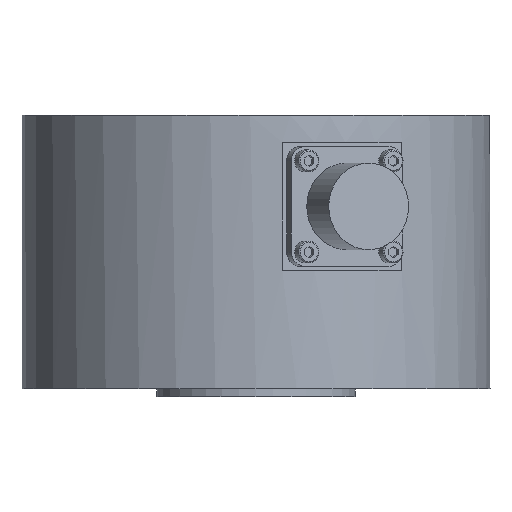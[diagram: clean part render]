
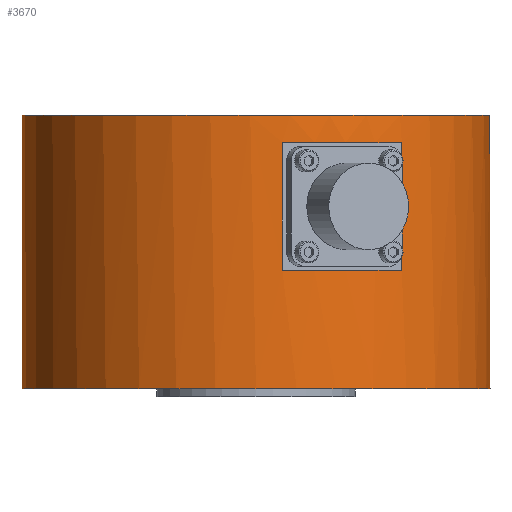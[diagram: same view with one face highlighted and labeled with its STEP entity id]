
A CAD part, front view. The second image highlights one B-rep face of the part: STEP entity #3670.
In plain terms, the highlighted cylindrical face has radius 59 mm (diameter 118 mm), a full revolution.
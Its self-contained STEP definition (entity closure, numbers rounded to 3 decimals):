
#35=LINE('',#4902,#271);
#36=LINE('',#4907,#272);
#271=VECTOR('',#4180,1000.);
#272=VECTOR('',#4183,1000.);
#517=CYLINDRICAL_SURFACE('',#3873,59.);
#589=ORIENTED_EDGE('',*,*,#1207,.T.);
#590=ORIENTED_EDGE('',*,*,#1208,.T.);
#591=ORIENTED_EDGE('',*,*,#1209,.T.);
#592=ORIENTED_EDGE('',*,*,#1210,.F.);
#593=ORIENTED_EDGE('',*,*,#1211,.F.);
#594=ORIENTED_EDGE('',*,*,#1212,.F.);
#1207=EDGE_CURVE('',#1526,#1526,#1764,.F.);
#1208=EDGE_CURVE('',#1527,#1527,#1765,.T.);
#1209=EDGE_CURVE('',#1528,#1529,#35,.T.);
#1210=EDGE_CURVE('',#1530,#1529,#1766,.F.);
#1211=EDGE_CURVE('',#1531,#1530,#36,.T.);
#1212=EDGE_CURVE('',#1528,#1531,#1767,.F.);
#1526=VERTEX_POINT('',#4898);
#1527=VERTEX_POINT('',#4901);
#1528=VERTEX_POINT('',#4903);
#1529=VERTEX_POINT('',#4904);
#1530=VERTEX_POINT('',#4906);
#1531=VERTEX_POINT('',#4908);
#1764=CIRCLE('',#3872,59.);
#1765=CIRCLE('',#3874,59.);
#1766=CIRCLE('',#3875,59.);
#1767=CIRCLE('',#3876,59.);
#1867=EDGE_LOOP('',(#589));
#1868=EDGE_LOOP('',(#590));
#1869=EDGE_LOOP('',(#591,#592,#593,#594));
#2123=FACE_BOUND('',#1867,.T.);
#2124=FACE_BOUND('',#1868,.T.);
#2125=FACE_BOUND('',#1869,.T.);
#3670=ADVANCED_FACE('',(#2123,#2124,#2125),#517,.T.);
#3872=AXIS2_PLACEMENT_3D('',#4897,#4174,#4175);
#3873=AXIS2_PLACEMENT_3D('',#4899,#4176,#4177);
#3874=AXIS2_PLACEMENT_3D('',#4900,#4178,#4179);
#3875=AXIS2_PLACEMENT_3D('',#4905,#4181,#4182);
#3876=AXIS2_PLACEMENT_3D('',#4909,#4184,#4185);
#4174=DIRECTION('',(0.,0.,-1.));
#4175=DIRECTION('',(-1.,0.,0.));
#4176=DIRECTION('',(0.,0.,-1.));
#4177=DIRECTION('',(-1.,0.,0.));
#4178=DIRECTION('',(0.,0.,-1.));
#4179=DIRECTION('',(0.924,-0.383,0.));
#4180=DIRECTION('',(0.,0.,-1.));
#4181=DIRECTION('',(0.,0.,-1.));
#4182=DIRECTION('',(-0.924,0.383,0.));
#4183=DIRECTION('',(0.,0.,-1.));
#4184=DIRECTION('',(0.,0.,1.));
#4185=DIRECTION('',(0.924,-0.383,0.));
#4897=CARTESIAN_POINT('',(0.,0.,-11.));
#4898=CARTESIAN_POINT('',(-59.,0.,-11.));
#4899=CARTESIAN_POINT('',(0.,0.,13.));
#4900=CARTESIAN_POINT('',(0.,0.,58.));
#4901=CARTESIAN_POINT('',(54.509,-22.578,58.));
#4902=CARTESIAN_POINT('',(36.769,-46.141,58.));
#4903=CARTESIAN_POINT('',(36.769,-46.141,51.1));
#4904=CARTESIAN_POINT('',(36.769,-46.141,18.9));
#4905=CARTESIAN_POINT('',(0.,0.,18.9));
#4906=CARTESIAN_POINT('',(6.627,-58.627,18.9));
#4907=CARTESIAN_POINT('',(6.627,-58.627,58.));
#4908=CARTESIAN_POINT('',(6.627,-58.627,51.1));
#4909=CARTESIAN_POINT('',(0.,0.,51.1));
